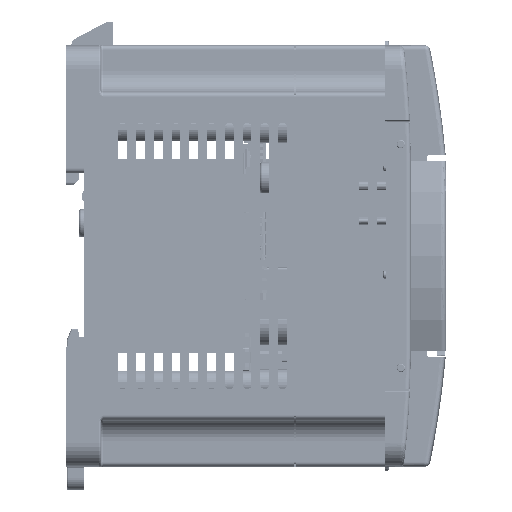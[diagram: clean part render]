
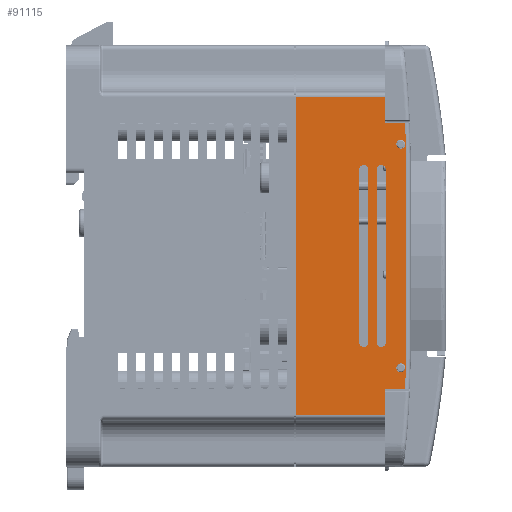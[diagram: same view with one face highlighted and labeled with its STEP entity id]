
A CAD part, left-side view. The second image highlights one B-rep face of the part: STEP entity #91115.
In plain terms, the highlighted planar face has unit normal (-1, 0, 0).
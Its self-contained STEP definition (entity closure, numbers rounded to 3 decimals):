
#64601=DIRECTION('',(0.,0.,-1.));
#64602=VECTOR('',#64601,5.5);
#64603=CARTESIAN_POINT('',(-112.25,9.,34.));
#64604=LINE('',#64603,#64602);
#69844=DIRECTION('',(0.,0.,-1.));
#69845=VECTOR('',#69844,5.5);
#69846=CARTESIAN_POINT('',(-112.25,9.,-28.5));
#69847=LINE('',#69846,#69845);
#70223=DIRECTION('',(0.,0.,-1.));
#70224=VECTOR('',#70223,68.);
#70225=CARTESIAN_POINT('',(-112.25,-10.,34.));
#70226=LINE('',#70225,#70224);
#70227=CARTESIAN_POINT('',(-112.25,-185.499,-19.748));
#70228=DIRECTION('',(1.,0.,0.));
#70229=DIRECTION('',(0.,0.999,-0.044));
#70230=AXIS2_PLACEMENT_3D('',#70227,#70228,#70229);
#70232=CARTESIAN_POINT('',(-112.25,-185.499,19.748));
#70233=DIRECTION('',(1.,0.,0.));
#70234=DIRECTION('',(0.,1.,0.002));
#70235=AXIS2_PLACEMENT_3D('',#70232,#70233,#70234);
#70237=DIRECTION('',(0.,-1.,0.));
#70238=VECTOR('',#70237,4.308);
#70239=CARTESIAN_POINT('',(-112.25,13.308,28.5));
#70240=LINE('',#70239,#70238);
#70241=CARTESIAN_POINT('',(-112.25,12.4,23.9));
#70242=DIRECTION('',(-1.,0.,0.));
#70243=DIRECTION('',(0.,0.,1.));
#70244=AXIS2_PLACEMENT_3D('',#70241,#70242,#70243);
#70246=CARTESIAN_POINT('',(-112.25,12.4,23.9));
#70247=DIRECTION('',(-1.,0.,0.));
#70248=DIRECTION('',(0.,0.,-1.));
#70249=AXIS2_PLACEMENT_3D('',#70246,#70247,#70248);
#70251=CARTESIAN_POINT('',(-112.25,8.25,-18.5));
#70252=DIRECTION('',(-1.,0.,0.));
#70253=DIRECTION('',(0.,1.,0.));
#70254=AXIS2_PLACEMENT_3D('',#70251,#70252,#70253);
#70256=CARTESIAN_POINT('',(-112.25,8.25,-18.5));
#70257=DIRECTION('',(-1.,0.,0.));
#70258=DIRECTION('',(0.,0.,-1.));
#70259=AXIS2_PLACEMENT_3D('',#70256,#70257,#70258);
#70261=CARTESIAN_POINT('',(-112.25,8.25,18.5));
#70262=DIRECTION('',(-1.,0.,0.));
#70263=DIRECTION('',(0.,-1.,0.));
#70264=AXIS2_PLACEMENT_3D('',#70261,#70262,#70263);
#70266=CARTESIAN_POINT('',(-112.25,8.25,18.5));
#70267=DIRECTION('',(-1.,0.,0.));
#70268=DIRECTION('',(0.,0.,1.));
#70269=AXIS2_PLACEMENT_3D('',#70266,#70267,#70268);
#70271=CARTESIAN_POINT('',(-112.25,12.4,-23.9));
#70272=DIRECTION('',(-1.,0.,0.));
#70273=DIRECTION('',(0.,0.,1.));
#70274=AXIS2_PLACEMENT_3D('',#70271,#70272,#70273);
#70276=CARTESIAN_POINT('',(-112.25,12.4,-23.9));
#70277=DIRECTION('',(-1.,0.,0.));
#70278=DIRECTION('',(0.,0.,-1.));
#70279=AXIS2_PLACEMENT_3D('',#70276,#70277,#70278);
#70281=CARTESIAN_POINT('',(-112.25,4.45,-18.5));
#70282=DIRECTION('',(-1.,0.,0.));
#70283=DIRECTION('',(0.,1.,0.));
#70284=AXIS2_PLACEMENT_3D('',#70281,#70282,#70283);
#70286=CARTESIAN_POINT('',(-112.25,4.45,-18.5));
#70287=DIRECTION('',(-1.,0.,0.));
#70288=DIRECTION('',(0.,0.,-1.));
#70289=AXIS2_PLACEMENT_3D('',#70286,#70287,#70288);
#70291=CARTESIAN_POINT('',(-112.25,4.45,18.5));
#70292=DIRECTION('',(-1.,0.,0.));
#70293=DIRECTION('',(0.,-1.,0.));
#70294=AXIS2_PLACEMENT_3D('',#70291,#70292,#70293);
#70296=CARTESIAN_POINT('',(-112.25,4.45,18.5));
#70297=DIRECTION('',(-1.,0.,0.));
#70298=DIRECTION('',(0.,0.,1.));
#70299=AXIS2_PLACEMENT_3D('',#70296,#70297,#70298);
#70305=DIRECTION('',(0.,1.,0.));
#70306=VECTOR('',#70305,19.);
#70307=CARTESIAN_POINT('',(-112.25,-10.,34.));
#70308=LINE('',#70307,#70306);
#70337=DIRECTION('',(0.,-1.,0.));
#70338=VECTOR('',#70337,19.);
#70339=CARTESIAN_POINT('',(-112.25,9.,-34.));
#70340=LINE('',#70339,#70338);
#70955=CARTESIAN_POINT('',(-112.25,13.308,-28.5));
#70957=DIRECTION('',(0.,-1.,0.));
#70958=VECTOR('',#70957,4.308);
#70959=CARTESIAN_POINT('',(-112.25,13.308,-28.5));
#70960=LINE('',#70959,#70958);
#70961=DIRECTION('',(0.,0.,-1.));
#70962=VECTOR('',#70961,40.397);
#70963=CARTESIAN_POINT('',(-112.25,13.5,20.199));
#70964=LINE('',#70963,#70962);
#71032=DIRECTION('',(0.,0.,-1.));
#71033=VECTOR('',#71032,37.);
#71034=CARTESIAN_POINT('',(-112.25,7.3,18.5));
#71035=LINE('',#71034,#71033);
#71064=DIRECTION('',(0.,0.,1.));
#71065=VECTOR('',#71064,37.);
#71066=CARTESIAN_POINT('',(-112.25,9.2,-18.5));
#71067=LINE('',#71066,#71065);
#71120=DIRECTION('',(0.,0.,-1.));
#71121=VECTOR('',#71120,37.);
#71122=CARTESIAN_POINT('',(-112.25,3.5,18.5));
#71123=LINE('',#71122,#71121);
#71152=DIRECTION('',(0.,0.,1.));
#71153=VECTOR('',#71152,37.);
#71154=CARTESIAN_POINT('',(-112.25,5.4,-18.5));
#71155=LINE('',#71154,#71153);
#77638=CARTESIAN_POINT('',(-112.25,-10.,-34.));
#77639=VERTEX_POINT('',#77638);
#77640=CARTESIAN_POINT('',(-112.25,-10.,34.));
#77641=VERTEX_POINT('',#77640);
#79454=CARTESIAN_POINT('',(-112.25,9.,-28.5));
#79455=VERTEX_POINT('',#79454);
#79456=CARTESIAN_POINT('',(-112.25,9.,-34.));
#79457=VERTEX_POINT('',#79456);
#79518=CARTESIAN_POINT('',(-112.25,9.,34.));
#79519=VERTEX_POINT('',#79518);
#79520=CARTESIAN_POINT('',(-112.25,9.,28.5));
#79521=VERTEX_POINT('',#79520);
#79524=VERTEX_POINT('',#70955);
#79527=CARTESIAN_POINT('',(-112.25,13.5,-20.198));
#79528=VERTEX_POINT('',#79527);
#79529=CARTESIAN_POINT('',(-112.25,13.5,20.199));
#79530=VERTEX_POINT('',#79529);
#79531=CARTESIAN_POINT('',(-112.25,13.308,28.5));
#79532=VERTEX_POINT('',#79531);
#79533=CARTESIAN_POINT('',(-112.25,12.4,24.85));
#79534=CARTESIAN_POINT('',(-112.25,12.4,22.95));
#79535=VERTEX_POINT('',#79533);
#79536=VERTEX_POINT('',#79534);
#79537=CARTESIAN_POINT('',(-112.25,9.2,-18.5));
#79538=CARTESIAN_POINT('',(-112.25,8.25,-19.45));
#79539=VERTEX_POINT('',#79537);
#79540=VERTEX_POINT('',#79538);
#79541=CARTESIAN_POINT('',(-112.25,7.3,-18.5));
#79542=VERTEX_POINT('',#79541);
#79543=CARTESIAN_POINT('',(-112.25,7.3,18.5));
#79544=VERTEX_POINT('',#79543);
#79545=CARTESIAN_POINT('',(-112.25,8.25,19.45));
#79546=VERTEX_POINT('',#79545);
#79547=CARTESIAN_POINT('',(-112.25,9.2,18.5));
#79548=VERTEX_POINT('',#79547);
#79549=CARTESIAN_POINT('',(-112.25,12.4,-22.95));
#79550=CARTESIAN_POINT('',(-112.25,12.4,-24.85));
#79551=VERTEX_POINT('',#79549);
#79552=VERTEX_POINT('',#79550);
#79553=CARTESIAN_POINT('',(-112.25,5.4,-18.5));
#79554=CARTESIAN_POINT('',(-112.25,4.45,-19.45));
#79555=VERTEX_POINT('',#79553);
#79556=VERTEX_POINT('',#79554);
#79557=CARTESIAN_POINT('',(-112.25,3.5,-18.5));
#79558=VERTEX_POINT('',#79557);
#79559=CARTESIAN_POINT('',(-112.25,3.5,18.5));
#79560=VERTEX_POINT('',#79559);
#79561=CARTESIAN_POINT('',(-112.25,4.45,19.45));
#79562=VERTEX_POINT('',#79561);
#79563=CARTESIAN_POINT('',(-112.25,5.4,18.5));
#79564=VERTEX_POINT('',#79563);
#91052=CARTESIAN_POINT('',(-112.25,0.,-45.));
#91053=DIRECTION('',(-1.,0.,0.));
#91054=DIRECTION('',(0.,0.,1.));
#91055=AXIS2_PLACEMENT_3D('',#91052,#91053,#91054);
#91056=PLANE('',#91055);
#91058=ORIENTED_EDGE('',*,*,#91057,.F.);
#91059=ORIENTED_EDGE('',*,*,#81562,.T.);
#91061=ORIENTED_EDGE('',*,*,#91060,.F.);
#91062=ORIENTED_EDGE('',*,*,#90557,.F.);
#91064=ORIENTED_EDGE('',*,*,#91063,.F.);
#91065=ORIENTED_EDGE('',*,*,#91042,.T.);
#91067=ORIENTED_EDGE('',*,*,#91066,.F.);
#91069=ORIENTED_EDGE('',*,*,#91068,.T.);
#91071=ORIENTED_EDGE('',*,*,#91070,.T.);
#91072=ORIENTED_EDGE('',*,*,#83948,.F.);
#91073=EDGE_LOOP('',(#91058,#91059,#91061,#91062,#91064,#91065,#91067,#91069,
#91071,#91072));
#91074=FACE_OUTER_BOUND('',#91073,.F.);
#91076=ORIENTED_EDGE('',*,*,#91075,.T.);
#91078=ORIENTED_EDGE('',*,*,#91077,.T.);
#91079=EDGE_LOOP('',(#91076,#91078));
#91080=FACE_BOUND('',#91079,.F.);
#91082=ORIENTED_EDGE('',*,*,#91081,.T.);
#91084=ORIENTED_EDGE('',*,*,#91083,.T.);
#91086=ORIENTED_EDGE('',*,*,#91085,.F.);
#91088=ORIENTED_EDGE('',*,*,#91087,.T.);
#91090=ORIENTED_EDGE('',*,*,#91089,.T.);
#91092=ORIENTED_EDGE('',*,*,#91091,.F.);
#91093=EDGE_LOOP('',(#91082,#91084,#91086,#91088,#91090,#91092));
#91094=FACE_BOUND('',#91093,.F.);
#91096=ORIENTED_EDGE('',*,*,#91095,.T.);
#91098=ORIENTED_EDGE('',*,*,#91097,.T.);
#91099=EDGE_LOOP('',(#91096,#91098));
#91100=FACE_BOUND('',#91099,.F.);
#91102=ORIENTED_EDGE('',*,*,#91101,.T.);
#91104=ORIENTED_EDGE('',*,*,#91103,.T.);
#91106=ORIENTED_EDGE('',*,*,#91105,.F.);
#91108=ORIENTED_EDGE('',*,*,#91107,.T.);
#91110=ORIENTED_EDGE('',*,*,#91109,.T.);
#91112=ORIENTED_EDGE('',*,*,#91111,.F.);
#91113=EDGE_LOOP('',(#91102,#91104,#91106,#91108,#91110,#91112));
#91114=FACE_BOUND('',#91113,.F.);
#91115=ADVANCED_FACE('',(#91074,#91080,#91094,#91100,#91114),#91056,.T.);
#70231=CIRCLE('',#70230,199.);
#70236=CIRCLE('',#70235,199.);
#70245=CIRCLE('',#70244,0.95);
#70250=CIRCLE('',#70249,0.95);
#70255=CIRCLE('',#70254,0.95);
#70260=CIRCLE('',#70259,0.95);
#70265=CIRCLE('',#70264,0.95);
#70270=CIRCLE('',#70269,0.95);
#70275=CIRCLE('',#70274,0.95);
#70280=CIRCLE('',#70279,0.95);
#70285=CIRCLE('',#70284,0.95);
#70290=CIRCLE('',#70289,0.95);
#70295=CIRCLE('',#70294,0.95);
#70300=CIRCLE('',#70299,0.95);
#81562=EDGE_CURVE('',#77641,#77639,#70226,.T.);
#83948=EDGE_CURVE('',#79519,#79521,#64604,.T.);
#90557=EDGE_CURVE('',#79455,#79457,#69847,.T.);
#91042=EDGE_CURVE('',#79524,#79528,#70231,.T.);
#91057=EDGE_CURVE('',#77641,#79519,#70308,.T.);
#91060=EDGE_CURVE('',#79457,#77639,#70340,.T.);
#91063=EDGE_CURVE('',#79524,#79455,#70960,.T.);
#91066=EDGE_CURVE('',#79530,#79528,#70964,.T.);
#91068=EDGE_CURVE('',#79530,#79532,#70236,.T.);
#91070=EDGE_CURVE('',#79532,#79521,#70240,.T.);
#91075=EDGE_CURVE('',#79535,#79536,#70245,.T.);
#91077=EDGE_CURVE('',#79536,#79535,#70250,.T.);
#91081=EDGE_CURVE('',#79539,#79540,#70255,.T.);
#91083=EDGE_CURVE('',#79540,#79542,#70260,.T.);
#91085=EDGE_CURVE('',#79544,#79542,#71035,.T.);
#91087=EDGE_CURVE('',#79544,#79546,#70265,.T.);
#91089=EDGE_CURVE('',#79546,#79548,#70270,.T.);
#91091=EDGE_CURVE('',#79539,#79548,#71067,.T.);
#91095=EDGE_CURVE('',#79551,#79552,#70275,.T.);
#91097=EDGE_CURVE('',#79552,#79551,#70280,.T.);
#91101=EDGE_CURVE('',#79555,#79556,#70285,.T.);
#91103=EDGE_CURVE('',#79556,#79558,#70290,.T.);
#91105=EDGE_CURVE('',#79560,#79558,#71123,.T.);
#91107=EDGE_CURVE('',#79560,#79562,#70295,.T.);
#91109=EDGE_CURVE('',#79562,#79564,#70300,.T.);
#91111=EDGE_CURVE('',#79555,#79564,#71155,.T.);
